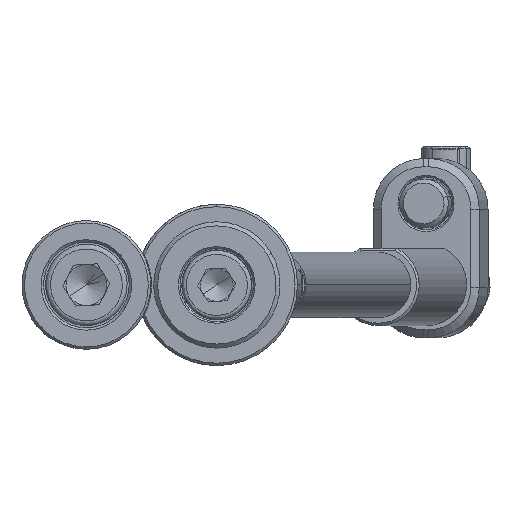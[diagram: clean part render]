
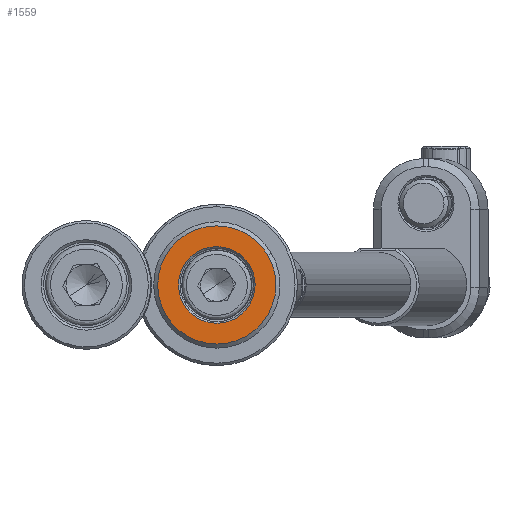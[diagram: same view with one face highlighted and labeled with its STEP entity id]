
A CAD part, front view. The second image highlights one B-rep face of the part: STEP entity #1559.
In plain terms, the highlighted planar face has unit normal (0, -1, 0).
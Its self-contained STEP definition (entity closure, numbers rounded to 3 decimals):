
#44 = EDGE_CURVE ( 'NONE', #9552, #13317, #14026, .T. ) ;
#757 = AXIS2_PLACEMENT_3D ( 'NONE', #5075, #12721, #10876 ) ;
#798 = CARTESIAN_POINT ( 'NONE',  ( 0., -4., 0. ) ) ;
#847 = PLANE ( 'NONE',  #757 ) ;
#932 = DIRECTION ( 'NONE',  ( -0.865, 0., -0.503 ) ) ;
#946 = ORIENTED_EDGE ( 'NONE', *, *, #8162, .T. ) ;
#1192 = EDGE_CURVE ( 'NONE', #6077, #1976, #1595, .T. ) ;
#1559 = ADVANCED_FACE ( 'NONE', ( #13778, #14060 ), #847, .F. ) ;
#1595 = CIRCLE ( 'NONE', #11989, 4.7 ) ;
#1841 = DIRECTION ( 'NONE',  ( 0., 1., 0. ) ) ;
#1976 = VERTEX_POINT ( 'NONE', #4420 ) ;
#2595 = CARTESIAN_POINT ( 'NONE',  ( 0., -4., 0. ) ) ;
#2865 = DIRECTION ( 'NONE',  ( 0., 1., 0. ) ) ;
#3115 = DIRECTION ( 'NONE',  ( 0., -1., 0. ) ) ;
#3651 = CARTESIAN_POINT ( 'NONE',  ( 6.268, -4., 3.643 ) ) ;
#4420 = CARTESIAN_POINT ( 'NONE',  ( 4.063, -4., 2.362 ) ) ;
#4875 = EDGE_CURVE ( 'NONE', #1976, #6077, #13911, .T. ) ;
#4958 = CARTESIAN_POINT ( 'NONE',  ( 0., -4., 0. ) ) ;
#4969 = EDGE_LOOP ( 'NONE', ( #6089, #946 ) ) ;
#5075 = CARTESIAN_POINT ( 'NONE',  ( 2.261, -4., -3.891 ) ) ;
#5824 = EDGE_LOOP ( 'NONE', ( #12357, #7477 ) ) ;
#6077 = VERTEX_POINT ( 'NONE', #10219 ) ;
#6089 = ORIENTED_EDGE ( 'NONE', *, *, #44, .T. ) ;
#7477 = ORIENTED_EDGE ( 'NONE', *, *, #1192, .T. ) ;
#7497 = CARTESIAN_POINT ( 'NONE',  ( -6.268, -4., -3.643 ) ) ;
#7866 = AXIS2_PLACEMENT_3D ( 'NONE', #8621, #3115, #13062 ) ;
#8162 = EDGE_CURVE ( 'NONE', #13317, #9552, #12788, .T. ) ;
#8621 = CARTESIAN_POINT ( 'NONE',  ( 0., -4., 0. ) ) ;
#9552 = VERTEX_POINT ( 'NONE', #7497 ) ;
#10063 = AXIS2_PLACEMENT_3D ( 'NONE', #4958, #2865, #13726 ) ;
#10137 = DIRECTION ( 'NONE',  ( 0., -1., 0. ) ) ;
#10219 = CARTESIAN_POINT ( 'NONE',  ( -4.063, -4., -2.362 ) ) ;
#10876 = DIRECTION ( 'NONE',  ( -0.865, 0., -0.503 ) ) ;
#11261 = DIRECTION ( 'NONE',  ( -0.865, 0., -0.503 ) ) ;
#11989 = AXIS2_PLACEMENT_3D ( 'NONE', #798, #1841, #932 ) ;
#12357 = ORIENTED_EDGE ( 'NONE', *, *, #4875, .T. ) ;
#12559 = AXIS2_PLACEMENT_3D ( 'NONE', #2595, #10137, #11261 ) ;
#12721 = DIRECTION ( 'NONE',  ( 0., 1., 0. ) ) ;
#12788 = CIRCLE ( 'NONE', #12559, 7.25 ) ;
#13062 = DIRECTION ( 'NONE',  ( -0.865, 0., -0.503 ) ) ;
#13317 = VERTEX_POINT ( 'NONE', #3651 ) ;
#13726 = DIRECTION ( 'NONE',  ( -0.865, 0., -0.503 ) ) ;
#13778 = FACE_BOUND ( 'NONE', #5824, .T. ) ;
#13911 = CIRCLE ( 'NONE', #10063, 4.7 ) ;
#14026 = CIRCLE ( 'NONE', #7866, 7.25 ) ;
#14060 = FACE_OUTER_BOUND ( 'NONE', #4969, .T. ) ;
